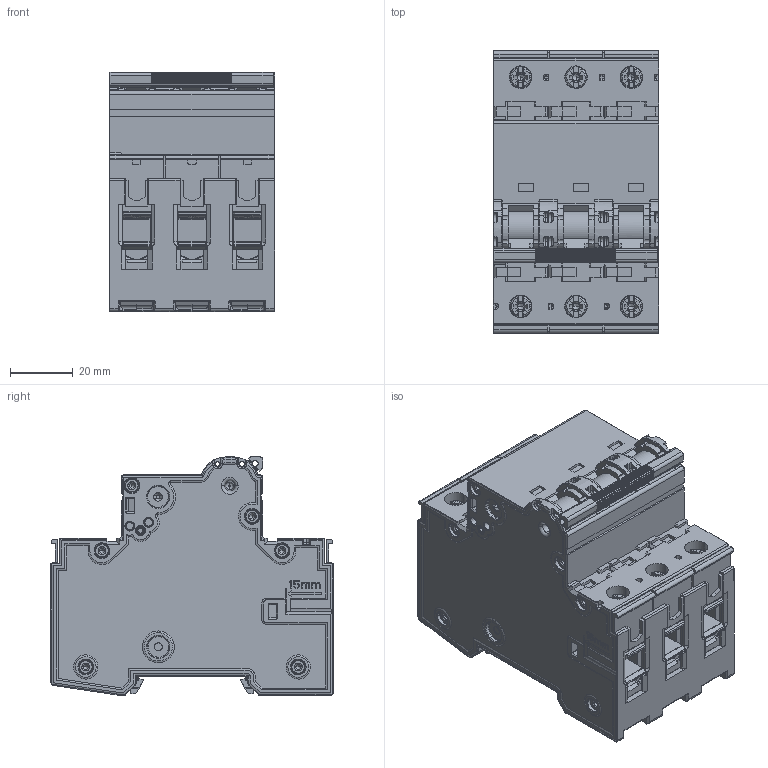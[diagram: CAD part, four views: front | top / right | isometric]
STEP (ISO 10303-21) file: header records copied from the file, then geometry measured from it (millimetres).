
FILE_DESCRIPTION (( 'STEP AP214' ), '1' );
FILE_NAME ('LTN-3.STEP', '2018-09-05T11:42:42', ( '' ), ( '' ), 'SwSTEP 2.0', 'SolidWorks 2015', '' );
FILE_SCHEMA (( 'AUTOMOTIVE_DESIGN' ));
Length unit declared in the file: millimetre
Products named in the file (1): LTN-3
Bounding box: 52.8 x 89.8 x 76.07 mm (x, y, z)
Volume: 252577.9 mm3; surface area: 47215.5 mm2
Topology: 1 solids, 7 shells, 3657 faces, 10620 edges, 6974 vertices
Faces by surface type: plane 2187, cylinder 803, cone 248, bspline 240, torus 131, sphere 48
Entity records: 182774 total; most frequent: CARTESIAN_POINT 52577, ORIENTED_EDGE 21146, DIRECTION 14802, EDGE_CURVE 10573, VERTEX_POINT 6962, LINE 6288, VECTOR 6288, AXIS2_PLACEMENT_3D 4257
